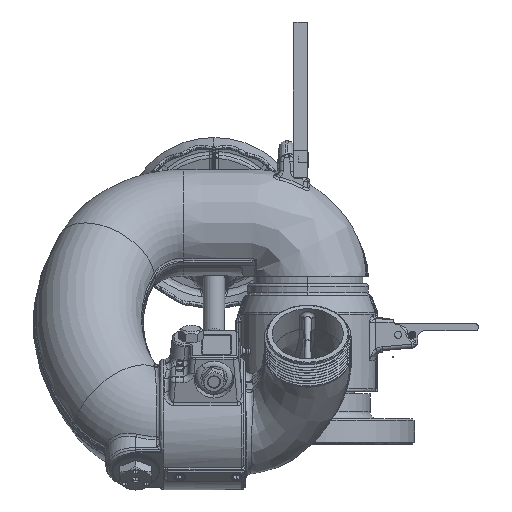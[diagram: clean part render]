
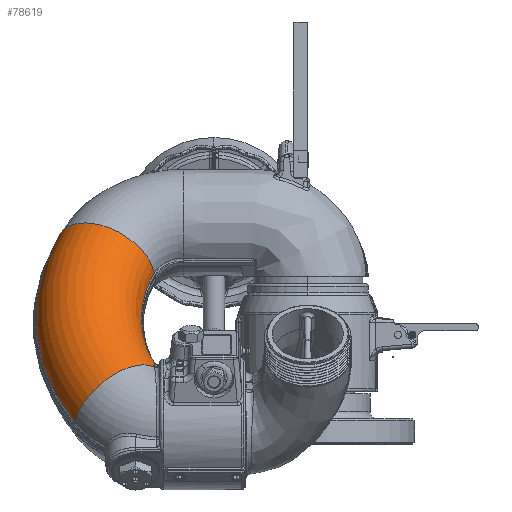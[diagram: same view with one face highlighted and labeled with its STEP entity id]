
A CAD part, top view. The second image highlights one B-rep face of the part: STEP entity #78619.
In plain terms, the highlighted toroidal (fillet/blend) face has major radius 177.8 mm and minor radius 47.625 mm.
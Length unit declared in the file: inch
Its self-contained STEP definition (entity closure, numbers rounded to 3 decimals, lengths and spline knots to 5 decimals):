
#275 = DIRECTION ( 'NONE',  ( 0.411, 0.698, -0.586 ) ) ;
#1293 = CARTESIAN_POINT ( 'NONE',  ( -5.35202, 0.93278, 5.00001 ) ) ;
#2005 = CARTESIAN_POINT ( 'NONE',  ( -5.41833, 0.95174, 5.59065 ) ) ;
#2725 = CARTESIAN_POINT ( 'NONE',  ( -5.31998, 0.83915, 4.75468 ) ) ;
#3352 = AXIS2_PLACEMENT_3D ( 'NONE', #33434, #275, #74567 ) ;
#3993 = CARTESIAN_POINT ( 'NONE',  ( -5.41745, 0.89325, 5.79952 ) ) ;
#4117 = VERTEX_POINT ( 'NONE', #31940 ) ;
#5083 = EDGE_CURVE ( 'NONE', #101434, #66143, #103649, .T. ) ;
#6181 = FACE_OUTER_BOUND ( 'NONE', #28032, .T. ) ;
#7861 = CARTESIAN_POINT ( 'NONE',  ( -5.41936, 0.92415, 5.69928 ) ) ;
#9221 = CARTESIAN_POINT ( 'NONE',  ( -0.718, 2.39262, 2.98446 ) ) ;
#10481 = AXIS2_PLACEMENT_3D ( 'NONE', #9221, #59322, #67605 ) ;
#13800 = DIRECTION ( 'NONE',  ( 0., -0.766, 0.643 ) ) ;
#17546 = CARTESIAN_POINT ( 'NONE',  ( -5.38843, 0.97633, 5.26141 ) ) ;
#21028 = ORIENTED_EDGE ( 'NONE', *, *, #91352, .F. ) ;
#21518 = AXIS2_PLACEMENT_3D ( 'NONE', #49477, #56773, #41223 ) ;
#23182 = DIRECTION ( 'NONE',  ( 0., 0.643, 0.766 ) ) ;
#24836 = EDGE_CURVE ( 'NONE', #66143, #105108, #91380, .T. ) ;
#26280 = ORIENTED_EDGE ( 'NONE', *, *, #5083, .T. ) ;
#28032 = EDGE_LOOP ( 'NONE', ( #76314, #81179, #89010, #21028, #102950, #26280 ) ) ;
#31940 = CARTESIAN_POINT ( 'NONE',  ( -5.40846, 4.18459, 1.83267 ) ) ;
#32259 = CIRCLE ( 'NONE', #3352, 1.875 ) ;
#32722 = CARTESIAN_POINT ( 'NONE',  ( -5.41976, 0.93054, 5.67778 ) ) ;
#33434 = CARTESIAN_POINT ( 'NONE',  ( -7.10024, 4.59519, 1.13629 ) ) ;
#34821 = CARTESIAN_POINT ( 'NONE',  ( -5.34611, 0.92021, 4.95807 ) ) ;
#35440 = CIRCLE ( 'NONE', #51943, 8.85622 ) ;
#38858 = EDGE_CURVE ( 'NONE', #105108, #86516, #65216, .T. ) ;
#41223 = DIRECTION ( 'NONE',  ( 0., -0.766, 0.643 ) ) ;
#43624 = CARTESIAN_POINT ( 'NONE',  ( -5.41642, 0.87636, 5.84918 ) ) ;
#43776 = CARTESIAN_POINT ( 'NONE',  ( -5.41213, 0.97023, 5.48115 ) ) ;
#47054 = EDGE_CURVE ( 'NONE', #86516, #4117, #79588, .T. ) ;
#48381 = EDGE_CURVE ( 'NONE', #54891, #101434, #35440, .T. ) ;
#49477 = CARTESIAN_POINT ( 'NONE',  ( -0.718, 2.56587, 3.19094 ) ) ;
#50657 = CARTESIAN_POINT ( 'NONE',  ( -5.39928, 0.97896, 5.34947 ) ) ;
#51739 = CARTESIAN_POINT ( 'NONE',  ( -5.41904, 0.94699, 5.61259 ) ) ;
#51943 = AXIS2_PLACEMENT_3D ( 'NONE', #95969, #23182, #13800 ) ;
#52102 = CARTESIAN_POINT ( 'NONE',  ( -5.37046, 0.96183, 5.12917 ) ) ;
#54891 = VERTEX_POINT ( 'NONE', #72390 ) ;
#56773 = DIRECTION ( 'NONE',  ( 0., -0.643, -0.766 ) ) ;
#58993 = CARTESIAN_POINT ( 'NONE',  ( -5.3295, 0.87641, 4.83435 ) ) ;
#59322 = DIRECTION ( 'NONE',  ( 0., -0.643, -0.766 ) ) ;
#59344 = CARTESIAN_POINT ( 'NONE',  ( -5.36419, 0.95359, 5.08548 ) ) ;
#61688 = CARTESIAN_POINT ( 'NONE',  ( -5.41936, 0.92415, 5.69928 ) ) ;
#64206 = TOROIDAL_SURFACE ( 'NONE', #10481, 7., 1.875 ) ;
#65216 = B_SPLINE_CURVE_WITH_KNOTS ( 'NONE', 3,
 ( #7861, #32722, #101115, #51739, #2005, #93173, #43776, #83546, #50657, #101464, #17546, #84262, #100058, #52102, #59344, #1293, #34821, #58993, #2725, #67622 ),
 .UNSPECIFIED., .F., .F.,
 ( 4, 2, 2, 2, 2, 2, 2, 2, 2, 4 ),
 ( 0., 0.00171, 0.00342, 0.00683, 0.01025, 0.01195, 0.01366, 0.01708, 0.02049, 0.02732 ),
 .UNSPECIFIED. ) ;
#66143 = VERTEX_POINT ( 'NONE', #74000 ) ;
#67605 = DIRECTION ( 'NONE',  ( 0., -0.766, 0.643 ) ) ;
#67622 = CARTESIAN_POINT ( 'NONE',  ( -5.31335, 0.79428, 4.67748 ) ) ;
#72390 = CARTESIAN_POINT ( 'NONE',  ( -8.79264, 5.34942, 0.84901 ) ) ;
#73518 = CARTESIAN_POINT ( 'NONE',  ( -6.61621, -0.49518, 5.40762 ) ) ;
#74000 = CARTESIAN_POINT ( 'NONE',  ( -5.41642, 0.87636, 5.84918 ) ) ;
#74567 = DIRECTION ( 'NONE',  ( 0., 0.643, 0.766 ) ) ;
#76314 = ORIENTED_EDGE ( 'NONE', *, *, #24836, .T. ) ;
#77920 = CARTESIAN_POINT ( 'NONE',  ( -5.41843, 0.90921, 5.74956 ) ) ;
#78619 = ADVANCED_FACE ( 'NONE', ( #6181 ), #64206, .T. ) ;
#79588 = CIRCLE ( 'NONE', #21518, 5.14447 ) ;
#81179 = ORIENTED_EDGE ( 'NONE', *, *, #38858, .T. ) ;
#83546 = CARTESIAN_POINT ( 'NONE',  ( -5.40411, 0.9776, 5.3934 ) ) ;
#84262 = CARTESIAN_POINT ( 'NONE',  ( -5.38262, 0.97291, 5.2173 ) ) ;
#86516 = VERTEX_POINT ( 'NONE', #106530 ) ;
#89010 = ORIENTED_EDGE ( 'NONE', *, *, #47054, .T. ) ;
#89387 = DIRECTION ( 'NONE',  ( -0.539, 0.645, -0.542 ) ) ;
#91352 = EDGE_CURVE ( 'NONE', #54891, #4117, #32259, .T. ) ;
#91380 = B_SPLINE_CURVE_WITH_KNOTS ( 'NONE', 3,
 ( #43624, #3993, #77920, #61688 ),
 .UNSPECIFIED., .F., .F.,
 ( 4, 4 ),
 ( 0., 0.004 ),
 .UNSPECIFIED. ) ;
#93173 = CARTESIAN_POINT ( 'NONE',  ( -5.41532, 0.96422, 5.52496 ) ) ;
#95969 = CARTESIAN_POINT ( 'NONE',  ( -0.718, 2.56279, 3.18727 ) ) ;
#96024 = AXIS2_PLACEMENT_3D ( 'NONE', #73518, #89387, #106292 ) ;
#96995 = CARTESIAN_POINT ( 'NONE',  ( -5.41936, 0.92415, 5.69928 ) ) ;
#100058 = CARTESIAN_POINT ( 'NONE',  ( -5.37961, 0.97059, 5.19518 ) ) ;
#101115 = CARTESIAN_POINT ( 'NONE',  ( -5.41975, 0.93639, 5.65614 ) ) ;
#101434 = VERTEX_POINT ( 'NONE', #102148 ) ;
#101464 = CARTESIAN_POINT ( 'NONE',  ( -5.39124, 0.97743, 5.28344 ) ) ;
#102148 = CARTESIAN_POINT ( 'NONE',  ( -8.18027, -1.09078, 6.25298 ) ) ;
#102950 = ORIENTED_EDGE ( 'NONE', *, *, #48381, .T. ) ;
#103649 = CIRCLE ( 'NONE', #96024, 1.875 ) ;
#105108 = VERTEX_POINT ( 'NONE', #96995 ) ;
#106292 = DIRECTION ( 'NONE',  ( 0., 0.643, 0.766 ) ) ;
#106530 = CARTESIAN_POINT ( 'NONE',  ( -5.31335, 0.79428, 4.67748 ) ) ;
